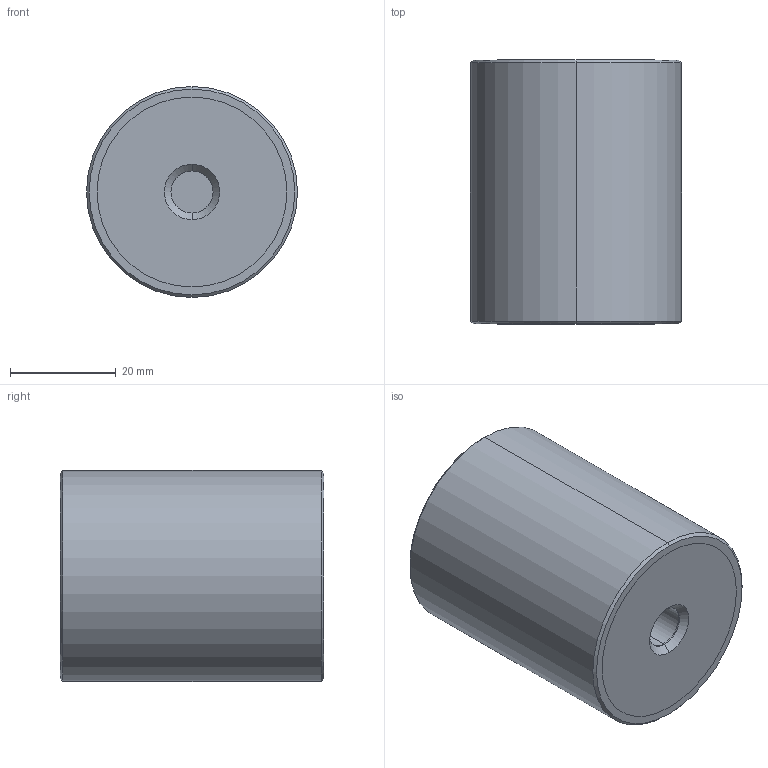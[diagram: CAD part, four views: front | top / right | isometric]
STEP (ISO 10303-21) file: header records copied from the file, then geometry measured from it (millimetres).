
FILE_DESCRIPTION (( 'STEP AP203' ), '1' );
FILE_NAME ('61080.W0403.step', '2018-07-16T20:44:49', ( '' ), ( '' ), 'SwSTEP 2.0', 'SolidWorks 2017', '' );
FILE_SCHEMA (( 'CONFIG_CONTROL_DESIGN' ));
Length unit declared in the file: millimetre
Products named in the file (4): 61080.W0403; Part3_61080.W0403; Part1_61080.W0403; Part2_61080.W0403
Assembly tree (3 placements, depth 2):
  61080.W0403
    Part1_61080.W0403
    Part2_61080.W0403
    Part3_61080.W0403
Bounding box: 40 x 50 x 40 mm (x, y, z)
Volume: 61953.1 mm3; surface area: 13640.6 mm2
Topology: 3 solids, 3 shells, 36 faces, 70 edges, 44 vertices
Faces by surface type: cylinder 18, plane 10, cone 8
Entity records: 1356 total; most frequent: DIRECTION 198, CARTESIAN_POINT 156, ORIENTED_EDGE 140, AXIS2_PLACEMENT_3D 86, EDGE_CURVE 70, VERTEX_POINT 44, EDGE_LOOP 44, CIRCLE 44
